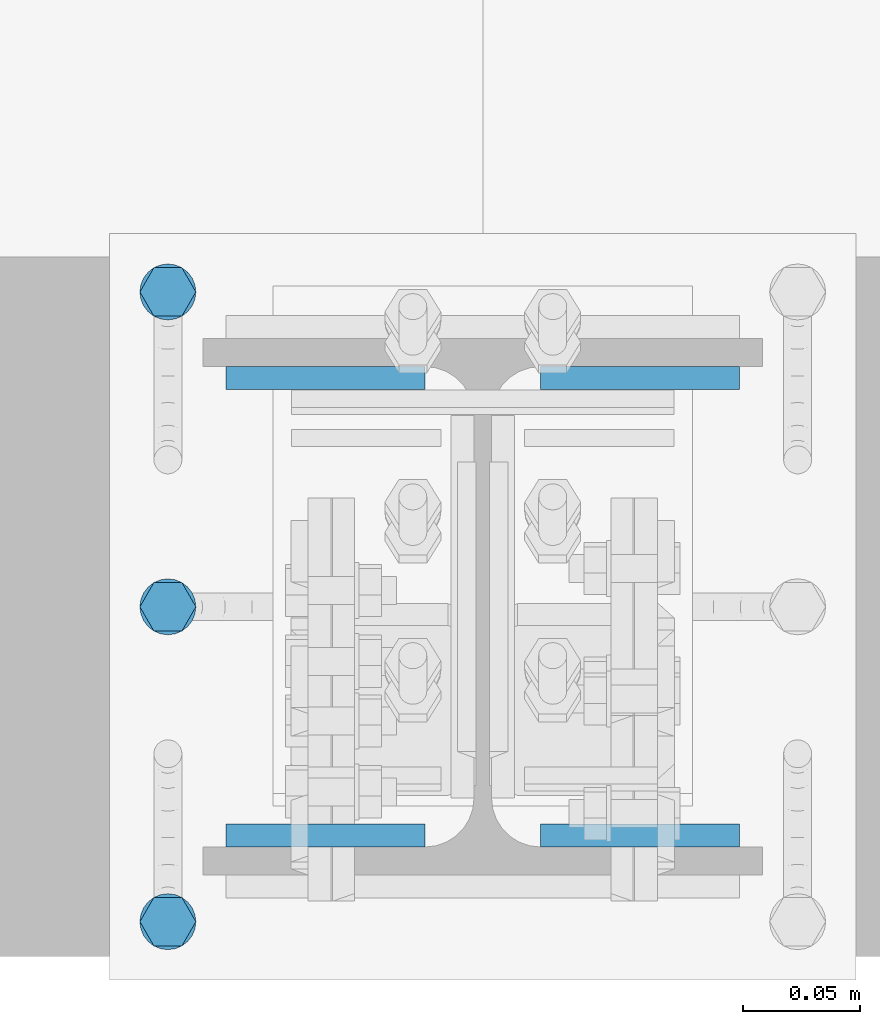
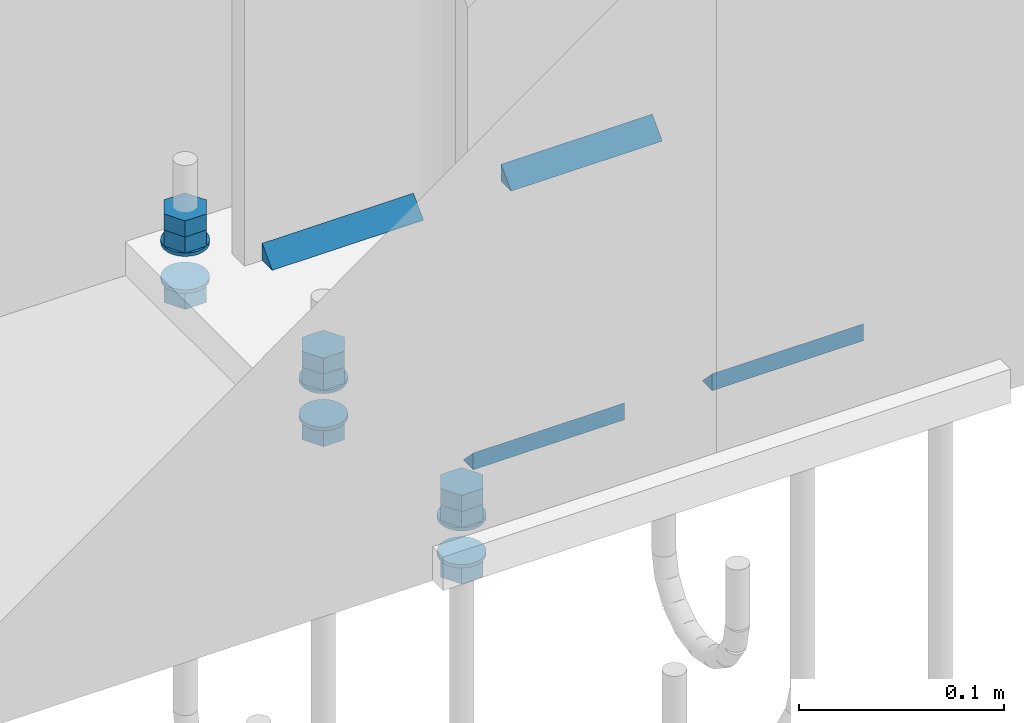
# One storey, part 33 of 72: 15 mechanical fasteners, 8 fasteners.
"""IFC4 building model written with IfcOpenShell, lengths in metres."""

from ifc_helpers import new_model, si_unit, frame, origin_with_axes, place, context, project, spatial, polyline, outline, extrude, type_object, element, save


model = new_model("IFC4")

# Units and contexts
model_context = context("Model", 3, precision=1e-05, world=origin_with_axes())
ifc_project = project(units=[si_unit("LENGTHUNIT", "METRE"), si_unit("AREAUNIT", "SQUARE_METRE"), si_unit("VOLUMEUNIT", "CUBIC_METRE"), si_unit("MASSUNIT", "GRAM", prefix="KILO"), si_unit("TIMEUNIT", "SECOND"), si_unit("PLANEANGLEUNIT", "RADIAN"), si_unit("SOLIDANGLEUNIT", "STERADIAN"), si_unit("THERMODYNAMICTEMPERATUREUNIT", "DEGREE_CELSIUS")], contexts=[model_context])

# Site, building, storey
placement_1 = place(None, origin_with_axes())
site = spatial("IfcSite", under=ifc_project, at=placement_1, Name="Italia", CompositionType="ELEMENT")
building = spatial("IfcBuilding", under=site, at=placement_1, Name="Uffici", CompositionType="ELEMENT")
storey = spatial("IfcBuildingStorey", under=building, at=placement_1, Name="Storey 0", CompositionType="ELEMENT", Elevation=0.0)

# Fasteners
fastener_type_1 = type_object("IfcFastenerType", Name="Collegamenti 0001_0101 0002_0102 0003_0103 0004_0104 0005_0105 0011_0111 0012_0112 0013_0113 0014_0114 0015_0115", PredefinedType="WELD")
placement_2 = place(placement_1, origin_with_axes())
fastener_1_placement = place(placement_2, origin_with_axes())
element("IfcFastener", 1, at=fastener_1_placement, inside=storey, type_object=fastener_type_1, Name="Collegamenti 0001_0101 0002_0102 0003_0103 0004_0104 0005_0105 0011_0111 0012_0112 0013_0113 0014_0114 0015_0115", context=model_context, shape_type="SweptSolid", body=[
    extrude(outline(polyline([(0.0, 0.0), (0.00986816, 0.0101734), (0.00986816, 0.0), (0.0, 0.0)])), frame((6.7797, 0.0931818, 0.01995), z_axis=(1.0, -8.7294403e-08, 0.0), x_axis=(8.7294403e-08, 1.0, 0.0)), (0.0, 0.0, 1.0), 0.08535),
])
fastener_type_2 = type_object("IfcFastenerType", Name="Collegamenti 0001_0101 0002_0102 0003_0103 0004_0104 0005_0105 0011_0111 0012_0112 0013_0113 0014_0114 0015_0115", PredefinedType="WELD")
fastener_2_placement = place(placement_2, origin_with_axes())
element("IfcFastener", 2, at=fastener_2_placement, inside=storey, type_object=fastener_type_2, Name="Collegamenti 0001_0101 0002_0102 0003_0103 0004_0104 0005_0105 0011_0111 0012_0112 0013_0113 0014_0114 0015_0115", context=model_context, shape_type="SweptSolid", body=[
    extrude(outline(polyline([(0.0, 0.0), (0.00986816, 0.0101734), (0.00986816, 0.0), (0.0, 0.0)])), frame((6.86505, -0.0931818, 0.01995), z_axis=(-1.0, 8.7294403e-08, 0.0), x_axis=(-8.7294403e-08, -1.0, 0.0)), (0.0, 0.0, 1.0), 0.08535),
])
fastener_type_3 = type_object("IfcFastenerType", Name="Collegamenti 0001_0101 0002_0102 0003_0103 0004_0104 0005_0105 0011_0111 0012_0112 0013_0113 0014_0114 0015_0115", PredefinedType="WELD")
fastener_3_placement = place(placement_2, origin_with_axes())
element("IfcFastener", 3, at=fastener_3_placement, inside=storey, type_object=fastener_type_3, Name="Collegamenti 0001_0101 0002_0102 0003_0103 0004_0104 0005_0105 0011_0111 0012_0112 0013_0113 0014_0114 0015_0115", context=model_context, shape_type="SweptSolid", body=[
    extrude(outline(polyline([(0.0, 0.0), (0.00986816, 0.0101734), (0.00986816, 0.0), (0.0, 0.0)])), frame((6.7303, -0.0931818, 0.01995), z_axis=(-1.0, 8.7294403e-08, 0.0), x_axis=(-8.7294403e-08, -1.0, 0.0)), (0.0, 0.0, 1.0), 0.08535),
])
fastener_type_4 = type_object("IfcFastenerType", Name="Collegamenti 0001_0101 0002_0102 0003_0103 0004_0104 0005_0105 0011_0111 0012_0112 0013_0113 0014_0114 0015_0115", PredefinedType="WELD")
fastener_4_placement = place(placement_2, origin_with_axes())
element("IfcFastener", 4, at=fastener_4_placement, inside=storey, type_object=fastener_type_4, Name="Collegamenti 0001_0101 0002_0102 0003_0103 0004_0104 0005_0105 0011_0111 0012_0112 0013_0113 0014_0114 0015_0115", context=model_context, shape_type="SweptSolid", body=[
    extrude(outline(polyline([(0.0, 0.0), (0.00986816, 0.0101734), (0.00986816, 0.0), (0.0, 0.0)])), frame((6.64495, 0.0931819, 0.01995), z_axis=(1.0, -8.7294403e-08, 0.0), x_axis=(8.7294403e-08, 1.0, 0.0)), (0.0, 0.0, 1.0), 0.08535),
])
fastener_type_5 = type_object("IfcFastenerType", Name="Collegamenti 0001_0101 0002_0102 0003_0103 0004_0104 0005_0105 0011_0111 0012_0112 0013_0113 0014_0114 0015_0115", PredefinedType="WELD")
fastener_5_placement = place(placement_2, origin_with_axes())
element("IfcFastener", 5, at=fastener_5_placement, inside=storey, type_object=fastener_type_5, Name="Collegamenti 0001_0101 0002_0102 0003_0103 0004_0104 0005_0105 0011_0111 0012_0112 0013_0113 0014_0114 0015_0115", context=model_context, shape_type="SweptSolid", body=[
    extrude(outline(polyline([(0.0, 0.0), (0.00986816, 0.0101734), (0.00986816, 0.0), (0.0, 0.0)])), frame((6.7797, 0.0931818, 0.01995), z_axis=(1.0, -8.7294403e-08, 0.0), x_axis=(8.7294403e-08, 1.0, 0.0)), (0.0, 0.0, 1.0), 0.08535),
])
fastener_type_6 = type_object("IfcFastenerType", Name="Collegamenti 0001_0101 0002_0102 0003_0103 0004_0104 0005_0105 0011_0111 0012_0112 0013_0113 0014_0114 0015_0115", PredefinedType="WELD")
fastener_6_placement = place(placement_2, origin_with_axes())
element("IfcFastener", 6, at=fastener_6_placement, inside=storey, type_object=fastener_type_6, Name="Collegamenti 0001_0101 0002_0102 0003_0103 0004_0104 0005_0105 0011_0111 0012_0112 0013_0113 0014_0114 0015_0115", context=model_context, shape_type="SweptSolid", body=[
    extrude(outline(polyline([(0.0, 0.0), (0.00986816, 0.0101734), (0.00986816, 0.0), (0.0, 0.0)])), frame((6.86505, -0.0931818, 0.01995), z_axis=(-1.0, 8.7294403e-08, 0.0), x_axis=(-8.7294403e-08, -1.0, 0.0)), (0.0, 0.0, 1.0), 0.08535),
])
fastener_type_7 = type_object("IfcFastenerType", Name="Collegamenti 0001_0101 0002_0102 0003_0103 0004_0104 0005_0105 0011_0111 0012_0112 0013_0113 0014_0114 0015_0115", PredefinedType="WELD")
fastener_7_placement = place(placement_2, origin_with_axes())
element("IfcFastener", 7, at=fastener_7_placement, inside=storey, type_object=fastener_type_7, Name="Collegamenti 0001_0101 0002_0102 0003_0103 0004_0104 0005_0105 0011_0111 0012_0112 0013_0113 0014_0114 0015_0115", context=model_context, shape_type="SweptSolid", body=[
    extrude(outline(polyline([(0.0, 0.0), (0.00986816, 0.0101734), (0.00986816, 0.0), (0.0, 0.0)])), frame((6.7303, -0.0931818, 0.01995), z_axis=(-1.0, 8.7294403e-08, 0.0), x_axis=(-8.7294403e-08, -1.0, 0.0)), (0.0, 0.0, 1.0), 0.08535),
])
fastener_type_8 = type_object("IfcFastenerType", Name="Collegamenti 0001_0101 0002_0102 0003_0103 0004_0104 0005_0105 0011_0111 0012_0112 0013_0113 0014_0114 0015_0115", PredefinedType="WELD")
fastener_8_placement = place(placement_2, origin_with_axes())
element("IfcFastener", 8, at=fastener_8_placement, inside=storey, type_object=fastener_type_8, Name="Collegamenti 0001_0101 0002_0102 0003_0103 0004_0104 0005_0105 0011_0111 0012_0112 0013_0113 0014_0114 0015_0115", context=model_context, shape_type="SweptSolid", body=[
    extrude(outline(polyline([(0.0, 0.0), (0.00986816, 0.0101734), (0.00986816, 0.0), (0.0, 0.0)])), frame((6.64495, 0.0931819, 0.01995), z_axis=(1.0, -8.7294403e-08, 0.0), x_axis=(8.7294403e-08, 1.0, 0.0)), (0.0, 0.0, 1.0), 0.08535),
])

# Mechanical fasteners
mechanical_fastener_type_1 = type_object("IfcMechanicalFastenerType", Name="Collegamenti 0001_0101 0002_0102 0003_0103 0004_0104 0005_0105 0011_0111 0012_0112 0013_0113 0014_0114 0015_0115", PredefinedType="BOLT")
mechanical_fastener_1_placement = place(placement_2, origin_with_axes())
element("IfcMechanicalFastener", 9, at=mechanical_fastener_1_placement, inside=storey, type_object=mechanical_fastener_type_1, Name="Collegamenti 0001_0101 0002_0102 0003_0103 0004_0104 0005_0105 0011_0111 0012_0112 0013_0113 0014_0114 0015_0115", NominalDiameter=0.0119996, context=model_context, shape_type="SweptSolid", body=[
    extrude(outline(polyline([(0.0, 0.0), (0.0, 0.0119996), (0.0103923, 0.0179996), (0.0207846, 0.0119996), (0.0207846, 0.0), (0.0103923, -0.00600004), (0.0, 0.0)])), frame((6.626, -0.145392, 0.022), z_axis=(0.0, 0.0, 1.0), x_axis=(0.0, 1.0, 0.0)), (0.0, 0.0, 1.0), 0.0096),
])
mechanical_fastener_type_2 = type_object("IfcMechanicalFastenerType", Name="Collegamenti 0001_0101 0002_0102 0003_0103 0004_0104 0005_0105 0011_0111 0012_0112 0013_0113 0014_0114 0015_0115", PredefinedType="BOLT")
mechanical_fastener_2_placement = place(placement_2, origin_with_axes())
element("IfcMechanicalFastener", 10, at=mechanical_fastener_2_placement, inside=storey, type_object=mechanical_fastener_type_2, Name="Collegamenti 0001_0101 0002_0102 0003_0103 0004_0104 0005_0105 0011_0111 0012_0112 0013_0113 0014_0114 0015_0115", NominalDiameter=0.0119996, context=model_context, shape_type="SweptSolid", body=[
    extrude(outline(polyline([(0.0, 0.0), (0.0, 0.0119996), (0.0103923, 0.0179996), (0.0207846, 0.0119996), (0.0207846, 0.0), (0.0103923, -0.00600004), (0.0, 0.0)])), frame((6.626, -0.145392, 0.0316), z_axis=(0.0, 0.0, 1.0), x_axis=(0.0, 1.0, 0.0)), (0.0, 0.0, 1.0), 0.0096),
])
mechanical_fastener_type_3 = type_object("IfcMechanicalFastenerType", Name="Collegamenti 0001_0101 0002_0102 0003_0103 0004_0104 0005_0105 0011_0111 0012_0112 0013_0113 0014_0114 0015_0115", PredefinedType="BOLT")
mechanical_fastener_3_placement = place(placement_2, origin_with_axes())
element("IfcMechanicalFastener", 11, at=mechanical_fastener_3_placement, inside=storey, type_object=mechanical_fastener_type_3, Name="Collegamenti 0001_0101 0002_0102 0003_0103 0004_0104 0005_0105 0011_0111 0012_0112 0013_0113 0014_0114 0015_0115", NominalDiameter=0.0119996, context=model_context, shape_type="SweptSolid", body=[
    extrude(outline(polyline([(0.0, 0.0), (0.0, 0.0119996), (0.0103923, 0.0179996), (0.0207846, 0.0119996), (0.0207846, 0.0), (0.0103923, -0.00600004), (0.0, 0.0)])), frame((6.626, -0.145392, -0.0116), z_axis=(0.0, 0.0, 1.0), x_axis=(0.0, 1.0, 0.0)), (0.0, 0.0, 1.0), 0.0096),
])
mechanical_fastener_type_4 = type_object("IfcMechanicalFastenerType", Name="Collegamenti 0001_0101 0002_0102 0003_0103 0004_0104 0005_0105 0011_0111 0012_0112 0013_0113 0014_0114 0015_0115", PredefinedType="BOLT")
mechanical_fastener_4_placement = place(placement_2, origin_with_axes())
element("IfcMechanicalFastener", 12, at=mechanical_fastener_4_placement, inside=storey, type_object=mechanical_fastener_type_4, Name="Collegamenti 0001_0101 0002_0102 0003_0103 0004_0104 0005_0105 0011_0111 0012_0112 0013_0113 0014_0114 0015_0115", NominalDiameter=0.024, context=model_context, shape_type="SweptSolid", body=[
    extrude(outline(polyline([(0.0, 0.0), (-0.000408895, -0.00310564), (-0.00160769, -0.00600004), (-0.00351471, -0.00848532), (-0.006, -0.0103922), (-0.00889417, -0.011591), (-0.012, -0.0120001), (-0.0151058, -0.011591), (-0.018, -0.0103922), (-0.0204853, -0.00848532), (-0.0223923, -0.00600004), (-0.0235911, -0.00310564), (-0.024, 0.0), (-0.0235911, 0.00310564), (-0.0223923, 0.00600004), (-0.0204853, 0.00848532), (-0.018, 0.0103922), (-0.0151058, 0.011591), (-0.012, 0.0120001), (-0.00889417, 0.011591), (-0.006, 0.0103922), (-0.00351471, 0.00848532), (-0.00160769, 0.00600004), (-0.000408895, 0.00310564), (0.0, 0.0)])), frame((6.62, -0.123, 0.02), z_axis=(0.0, 0.0, 1.0), x_axis=(0.0, 1.0, 0.0)), (0.0, 0.0, 1.0), 0.002),
])
mechanical_fastener_type_5 = type_object("IfcMechanicalFastenerType", Name="Collegamenti 0001_0101 0002_0102 0003_0103 0004_0104 0005_0105 0011_0111 0012_0112 0013_0113 0014_0114 0015_0115", PredefinedType="BOLT")
mechanical_fastener_5_placement = place(placement_2, origin_with_axes())
element("IfcMechanicalFastener", 13, at=mechanical_fastener_5_placement, inside=storey, type_object=mechanical_fastener_type_5, Name="Collegamenti 0001_0101 0002_0102 0003_0103 0004_0104 0005_0105 0011_0111 0012_0112 0013_0113 0014_0114 0015_0115", NominalDiameter=0.024, context=model_context, shape_type="SweptSolid", body=[
    extrude(outline(polyline([(0.0, 0.0), (-0.000408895, -0.00310564), (-0.00160769, -0.00600004), (-0.00351471, -0.00848532), (-0.006, -0.0103922), (-0.00889417, -0.011591), (-0.012, -0.0120001), (-0.0151058, -0.011591), (-0.018, -0.0103922), (-0.0204853, -0.00848532), (-0.0223923, -0.00600004), (-0.0235911, -0.00310564), (-0.024, 0.0), (-0.0235911, 0.00310564), (-0.0223923, 0.00600004), (-0.0204853, 0.00848532), (-0.018, 0.0103922), (-0.0151058, 0.011591), (-0.012, 0.0120001), (-0.00889417, 0.011591), (-0.006, 0.0103922), (-0.00351471, 0.00848532), (-0.00160769, 0.00600004), (-0.000408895, 0.00310564), (0.0, 0.0)])), frame((6.62, -0.123, -0.002), z_axis=(0.0, 0.0, 1.0), x_axis=(0.0, 1.0, 0.0)), (0.0, 0.0, 1.0), 0.002),
])
mechanical_fastener_type_6 = type_object("IfcMechanicalFastenerType", Name="Collegamenti 0001_0101 0002_0102 0003_0103 0004_0104 0005_0105 0011_0111 0012_0112 0013_0113 0014_0114 0015_0115", PredefinedType="BOLT")
mechanical_fastener_6_placement = place(placement_2, origin_with_axes())
element("IfcMechanicalFastener", 14, at=mechanical_fastener_6_placement, inside=storey, type_object=mechanical_fastener_type_6, Name="Collegamenti 0001_0101 0002_0102 0003_0103 0004_0104 0005_0105 0011_0111 0012_0112 0013_0113 0014_0114 0015_0115", NominalDiameter=0.0119996, context=model_context, shape_type="SweptSolid", body=[
    extrude(outline(polyline([(0.0, 0.0), (0.0, 0.0119996), (0.0103923, 0.0179996), (0.0207846, 0.0119996), (0.0207846, 0.0), (0.0103923, -0.00600004), (0.0, 0.0)])), frame((6.626, -0.0103923, 0.022), z_axis=(0.0, 0.0, 1.0), x_axis=(0.0, 1.0, 0.0)), (0.0, 0.0, 1.0), 0.0096),
])
mechanical_fastener_type_7 = type_object("IfcMechanicalFastenerType", Name="Collegamenti 0001_0101 0002_0102 0003_0103 0004_0104 0005_0105 0011_0111 0012_0112 0013_0113 0014_0114 0015_0115", PredefinedType="BOLT")
mechanical_fastener_7_placement = place(placement_2, origin_with_axes())
element("IfcMechanicalFastener", 15, at=mechanical_fastener_7_placement, inside=storey, type_object=mechanical_fastener_type_7, Name="Collegamenti 0001_0101 0002_0102 0003_0103 0004_0104 0005_0105 0011_0111 0012_0112 0013_0113 0014_0114 0015_0115", NominalDiameter=0.0119996, context=model_context, shape_type="SweptSolid", body=[
    extrude(outline(polyline([(0.0, 0.0), (0.0, 0.0119996), (0.0103923, 0.0179996), (0.0207846, 0.0119996), (0.0207846, 0.0), (0.0103923, -0.00600004), (0.0, 0.0)])), frame((6.626, -0.0103923, 0.0316), z_axis=(0.0, 0.0, 1.0), x_axis=(0.0, 1.0, 0.0)), (0.0, 0.0, 1.0), 0.0096),
])
mechanical_fastener_type_8 = type_object("IfcMechanicalFastenerType", Name="Collegamenti 0001_0101 0002_0102 0003_0103 0004_0104 0005_0105 0011_0111 0012_0112 0013_0113 0014_0114 0015_0115", PredefinedType="BOLT")
mechanical_fastener_8_placement = place(placement_2, origin_with_axes())
element("IfcMechanicalFastener", 16, at=mechanical_fastener_8_placement, inside=storey, type_object=mechanical_fastener_type_8, Name="Collegamenti 0001_0101 0002_0102 0003_0103 0004_0104 0005_0105 0011_0111 0012_0112 0013_0113 0014_0114 0015_0115", NominalDiameter=0.0119996, context=model_context, shape_type="SweptSolid", body=[
    extrude(outline(polyline([(0.0, 0.0), (0.0, 0.0119996), (0.0103923, 0.0179996), (0.0207846, 0.0119996), (0.0207846, 0.0), (0.0103923, -0.00600004), (0.0, 0.0)])), frame((6.626, -0.0103923, -0.0116), z_axis=(0.0, 0.0, 1.0), x_axis=(0.0, 1.0, 0.0)), (0.0, 0.0, 1.0), 0.0096),
])
mechanical_fastener_type_9 = type_object("IfcMechanicalFastenerType", Name="Collegamenti 0001_0101 0002_0102 0003_0103 0004_0104 0005_0105 0011_0111 0012_0112 0013_0113 0014_0114 0015_0115", PredefinedType="BOLT")
mechanical_fastener_9_placement = place(placement_2, origin_with_axes())
element("IfcMechanicalFastener", 17, at=mechanical_fastener_9_placement, inside=storey, type_object=mechanical_fastener_type_9, Name="Collegamenti 0001_0101 0002_0102 0003_0103 0004_0104 0005_0105 0011_0111 0012_0112 0013_0113 0014_0114 0015_0115", NominalDiameter=0.024, context=model_context, shape_type="SweptSolid", body=[
    extrude(outline(polyline([(0.0, 0.0), (-0.00040889, -0.00310564), (-0.0016077, -0.00600004), (-0.00351472, -0.00848532), (-0.006, -0.0103922), (-0.00889417, -0.011591), (-0.012, -0.0120001), (-0.0151058, -0.011591), (-0.018, -0.0103922), (-0.0204853, -0.00848532), (-0.0223923, -0.00600004), (-0.0235911, -0.00310564), (-0.024, 0.0), (-0.0235911, 0.00310564), (-0.0223923, 0.00600004), (-0.0204853, 0.00848532), (-0.018, 0.0103922), (-0.0151058, 0.011591), (-0.012, 0.0120001), (-0.00889417, 0.011591), (-0.006, 0.0103922), (-0.00351472, 0.00848532), (-0.00160769, 0.00600004), (-0.00040889, 0.00310564), (0.0, 0.0)])), frame((6.62, 0.012, 0.02), z_axis=(0.0, 0.0, 1.0), x_axis=(0.0, 1.0, 0.0)), (0.0, 0.0, 1.0), 0.002),
])
mechanical_fastener_type_10 = type_object("IfcMechanicalFastenerType", Name="Collegamenti 0001_0101 0002_0102 0003_0103 0004_0104 0005_0105 0011_0111 0012_0112 0013_0113 0014_0114 0015_0115", PredefinedType="BOLT")
mechanical_fastener_10_placement = place(placement_2, origin_with_axes())
element("IfcMechanicalFastener", 18, at=mechanical_fastener_10_placement, inside=storey, type_object=mechanical_fastener_type_10, Name="Collegamenti 0001_0101 0002_0102 0003_0103 0004_0104 0005_0105 0011_0111 0012_0112 0013_0113 0014_0114 0015_0115", NominalDiameter=0.024, context=model_context, shape_type="SweptSolid", body=[
    extrude(outline(polyline([(0.0, 0.0), (-0.00040889, -0.00310564), (-0.0016077, -0.00600004), (-0.00351472, -0.00848532), (-0.006, -0.0103922), (-0.00889417, -0.011591), (-0.012, -0.0120001), (-0.0151058, -0.011591), (-0.018, -0.0103922), (-0.0204853, -0.00848532), (-0.0223923, -0.00600004), (-0.0235911, -0.00310564), (-0.024, 0.0), (-0.0235911, 0.00310564), (-0.0223923, 0.00600004), (-0.0204853, 0.00848532), (-0.018, 0.0103922), (-0.0151058, 0.011591), (-0.012, 0.0120001), (-0.00889417, 0.011591), (-0.006, 0.0103922), (-0.00351472, 0.00848532), (-0.00160769, 0.00600004), (-0.00040889, 0.00310564), (0.0, 0.0)])), frame((6.62, 0.012, -0.002), z_axis=(0.0, 0.0, 1.0), x_axis=(0.0, 1.0, 0.0)), (0.0, 0.0, 1.0), 0.002),
])
mechanical_fastener_type_11 = type_object("IfcMechanicalFastenerType", Name="Collegamenti 0001_0101 0002_0102 0003_0103 0004_0104 0005_0105 0011_0111 0012_0112 0013_0113 0014_0114 0015_0115", PredefinedType="BOLT")
mechanical_fastener_11_placement = place(placement_2, origin_with_axes())
element("IfcMechanicalFastener", 19, at=mechanical_fastener_11_placement, inside=storey, type_object=mechanical_fastener_type_11, Name="Collegamenti 0001_0101 0002_0102 0003_0103 0004_0104 0005_0105 0011_0111 0012_0112 0013_0113 0014_0114 0015_0115", NominalDiameter=0.0119996, context=model_context, shape_type="SweptSolid", body=[
    extrude(outline(polyline([(0.0, 0.0), (0.0, 0.0119996), (0.0103923, 0.0179996), (0.0207846, 0.0119996), (0.0207846, 0.0), (0.0103923, -0.00600004), (0.0, 0.0)])), frame((6.626, 0.124608, 0.022), z_axis=(0.0, 0.0, 1.0), x_axis=(0.0, 1.0, 0.0)), (0.0, 0.0, 1.0), 0.0096),
])
mechanical_fastener_type_12 = type_object("IfcMechanicalFastenerType", Name="Collegamenti 0001_0101 0002_0102 0003_0103 0004_0104 0005_0105 0011_0111 0012_0112 0013_0113 0014_0114 0015_0115", PredefinedType="BOLT")
mechanical_fastener_12_placement = place(placement_2, origin_with_axes())
element("IfcMechanicalFastener", 20, at=mechanical_fastener_12_placement, inside=storey, type_object=mechanical_fastener_type_12, Name="Collegamenti 0001_0101 0002_0102 0003_0103 0004_0104 0005_0105 0011_0111 0012_0112 0013_0113 0014_0114 0015_0115", NominalDiameter=0.0119996, context=model_context, shape_type="SweptSolid", body=[
    extrude(outline(polyline([(0.0, 0.0), (0.0, 0.0119996), (0.0103923, 0.0179996), (0.0207846, 0.0119996), (0.0207846, 0.0), (0.0103923, -0.00600004), (0.0, 0.0)])), frame((6.626, 0.124608, 0.0316), z_axis=(0.0, 0.0, 1.0), x_axis=(0.0, 1.0, 0.0)), (0.0, 0.0, 1.0), 0.0096),
])
mechanical_fastener_type_13 = type_object("IfcMechanicalFastenerType", Name="Collegamenti 0001_0101 0002_0102 0003_0103 0004_0104 0005_0105 0011_0111 0012_0112 0013_0113 0014_0114 0015_0115", PredefinedType="BOLT")
mechanical_fastener_13_placement = place(placement_2, origin_with_axes())
element("IfcMechanicalFastener", 21, at=mechanical_fastener_13_placement, inside=storey, type_object=mechanical_fastener_type_13, Name="Collegamenti 0001_0101 0002_0102 0003_0103 0004_0104 0005_0105 0011_0111 0012_0112 0013_0113 0014_0114 0015_0115", NominalDiameter=0.0119996, context=model_context, shape_type="SweptSolid", body=[
    extrude(outline(polyline([(0.0, 0.0), (0.0, 0.0119996), (0.0103923, 0.0179996), (0.0207846, 0.0119996), (0.0207846, 0.0), (0.0103923, -0.00600004), (0.0, 0.0)])), frame((6.626, 0.124608, -0.0116), z_axis=(0.0, 0.0, 1.0), x_axis=(0.0, 1.0, 0.0)), (0.0, 0.0, 1.0), 0.0096),
])
mechanical_fastener_type_14 = type_object("IfcMechanicalFastenerType", Name="Collegamenti 0001_0101 0002_0102 0003_0103 0004_0104 0005_0105 0011_0111 0012_0112 0013_0113 0014_0114 0015_0115", PredefinedType="BOLT")
mechanical_fastener_14_placement = place(placement_2, origin_with_axes())
element("IfcMechanicalFastener", 22, at=mechanical_fastener_14_placement, inside=storey, type_object=mechanical_fastener_type_14, Name="Collegamenti 0001_0101 0002_0102 0003_0103 0004_0104 0005_0105 0011_0111 0012_0112 0013_0113 0014_0114 0015_0115", NominalDiameter=0.024, context=model_context, shape_type="SweptSolid", body=[
    extrude(outline(polyline([(0.0, 0.0), (-0.000408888, -0.00310564), (-0.00160769, -0.00600004), (-0.00351471, -0.00848532), (-0.006, -0.0103922), (-0.00889416, -0.011591), (-0.012, -0.0120001), (-0.0151058, -0.011591), (-0.018, -0.0103922), (-0.0204853, -0.00848532), (-0.0223923, -0.00600004), (-0.0235911, -0.00310564), (-0.024, 0.0), (-0.0235911, 0.00310564), (-0.0223923, 0.00600004), (-0.0204853, 0.00848532), (-0.018, 0.0103922), (-0.0151058, 0.011591), (-0.012, 0.0120001), (-0.00889416, 0.011591), (-0.006, 0.0103922), (-0.00351471, 0.00848532), (-0.00160769, 0.00600004), (-0.000408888, 0.00310564), (0.0, 0.0)])), frame((6.62, 0.147, 0.02), z_axis=(0.0, 0.0, 1.0), x_axis=(0.0, 1.0, 0.0)), (0.0, 0.0, 1.0), 0.002),
])
mechanical_fastener_type_15 = type_object("IfcMechanicalFastenerType", Name="Collegamenti 0001_0101 0002_0102 0003_0103 0004_0104 0005_0105 0011_0111 0012_0112 0013_0113 0014_0114 0015_0115", PredefinedType="BOLT")
mechanical_fastener_15_placement = place(placement_2, origin_with_axes())
element("IfcMechanicalFastener", 23, at=mechanical_fastener_15_placement, inside=storey, type_object=mechanical_fastener_type_15, Name="Collegamenti 0001_0101 0002_0102 0003_0103 0004_0104 0005_0105 0011_0111 0012_0112 0013_0113 0014_0114 0015_0115", NominalDiameter=0.024, context=model_context, shape_type="SweptSolid", body=[
    extrude(outline(polyline([(0.0, 0.0), (-0.000408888, -0.00310564), (-0.00160769, -0.00600004), (-0.00351471, -0.00848532), (-0.006, -0.0103922), (-0.00889416, -0.011591), (-0.012, -0.0120001), (-0.0151058, -0.011591), (-0.018, -0.0103922), (-0.0204853, -0.00848532), (-0.0223923, -0.00600004), (-0.0235911, -0.00310564), (-0.024, 0.0), (-0.0235911, 0.00310564), (-0.0223923, 0.00600004), (-0.0204853, 0.00848532), (-0.018, 0.0103922), (-0.0151058, 0.011591), (-0.012, 0.0120001), (-0.00889416, 0.011591), (-0.006, 0.0103922), (-0.00351471, 0.00848532), (-0.00160769, 0.00600004), (-0.000408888, 0.00310564), (0.0, 0.0)])), frame((6.62, 0.147, -0.002), z_axis=(0.0, 0.0, 1.0), x_axis=(0.0, 1.0, 0.0)), (0.0, 0.0, 1.0), 0.002),
])

save(model, "model.ifc")
